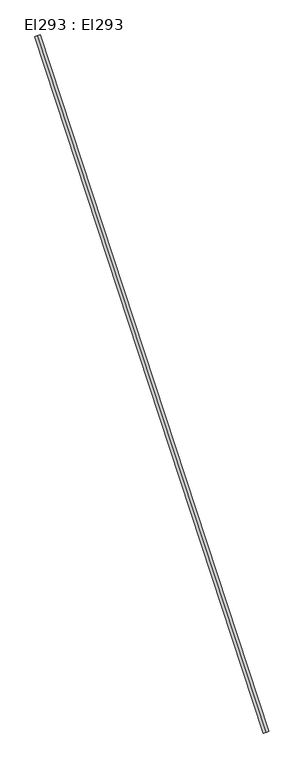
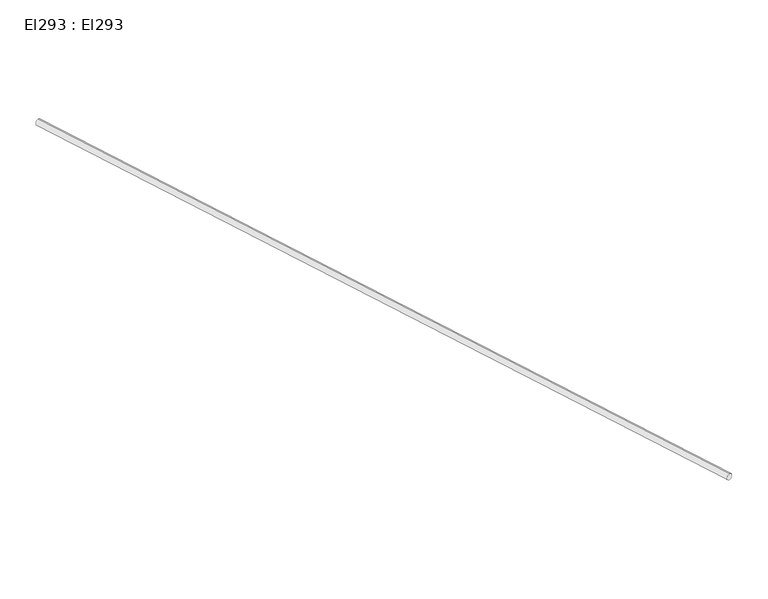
"""IFC4 building model written with IfcOpenShell, lengths in millimetres: cable carrier segment geometry, El293 : El293."""

from ifc_helpers import new_model, si_unit, point, frame, frame_2d, origin, place, context, project, spatial, circle_curve, trimmed, segment, composite_curve, outline, extrude, source, transform, mapped, element, save


def el293_el293_1ce196a9(model_context):
    return source(origin(), model_context, "Body", "SweptSolid", [
        extrude(outline(composite_curve([segment(trimmed(circle_curve(frame_2d((0.0, -9.5)), 9.5), [point((0.0, -19.0))], [point((0.0, 0.0))], False, "CARTESIAN"), True, "CONTINUOUS"), segment(trimmed(circle_curve(frame_2d((0.0, -9.5)), 9.5), [point((0.0, 0.0))], [point((0.0, -19.0))], False, "CARTESIAN"), True, "CONTINUOUS")], self_intersect=False)), frame((15961.7545056, 12397.2813701, 2959.5), z_axis=(-0.3116878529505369, 0.9501845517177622, 0.0), x_axis=(-0.9501845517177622, -0.3116878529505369, 0.0)), (0.0, 0.0, 1.0), 2493.23),
    ])


if __name__ == "__main__":
    model = new_model("IFC4")
    model_context = context("Model", 3, world=origin())
    ifc_project = project(units=[si_unit("LENGTHUNIT", "METRE", prefix="MILLI")], contexts=[model_context])
    site = spatial("IfcSite", under=ifc_project)
    building = spatial("IfcBuilding", under=site)
    placement = place(None, origin())
    el293_el293_shape = el293_el293_1ce196a9(model_context)
    element("IfcCableCarrierSegment", 1, ObjectType="El293 : El293", at=placement, inside=building, context=model_context, shape_type="MappedRepresentation", body=[
        mapped(el293_el293_shape, transform((0.0, 0.0, 0.0), x_axis=(1.0, 0.0, 0.0), y_axis=(0.0, 1.0, 0.0), z_axis=(0.0, 0.0, 1.0))),
    ])
    save(model, "model.ifc")
